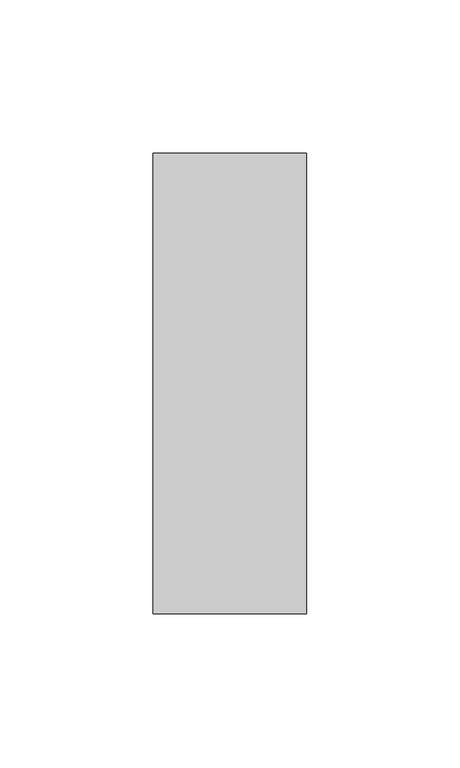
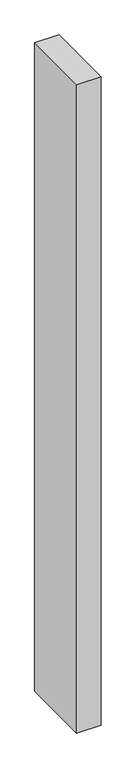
"""IFC4 building model written with IfcOpenShell, lengths in millimetres: member geometry, Прямоугольный импост : 50 x 150 мм."""

from ifc_helpers import new_model, si_unit, frame, origin, place, context, project, spatial, polyline, outline, extrude, source, transform, mapped, element, save


def member_3d2e16f0(model_context):
    return source(origin(), model_context, "Body", "SweptSolid", [
        extrude(outline(polyline([(25.0, 75.0), (25.0, -75.0), (-25.0, -75.0), (-25.0, 75.0), (25.0, 75.0)])), frame((0.0, 0.0, -1410.3991433), z_axis=(0.0, 0.0, 1.0), x_axis=(1.0, 0.0, 0.0)), (0.0, 0.0, 1.0), 1410.3991433),
    ])


if __name__ == "__main__":
    model = new_model("IFC4")
    model_context = context("Model", 3, world=origin())
    ifc_project = project(units=[si_unit("LENGTHUNIT", "METRE", prefix="MILLI")], contexts=[model_context])
    site = spatial("IfcSite", under=ifc_project)
    building = spatial("IfcBuilding", under=site)
    placement = place(None, origin())
    member_shape = member_3d2e16f0(model_context)
    element("IfcMember", 1, ObjectType="Прямоугольный импост : 50 x 150 мм", at=placement, inside=building, context=model_context, shape_type="MappedRepresentation", body=[
        mapped(member_shape, transform((0.0, 0.0, 0.0), x_axis=(1.0, 0.0, 0.0), y_axis=(0.0, 1.0, 0.0), z_axis=(0.0, 0.0, 1.0))),
    ])
    save(model, "model.ifc")
